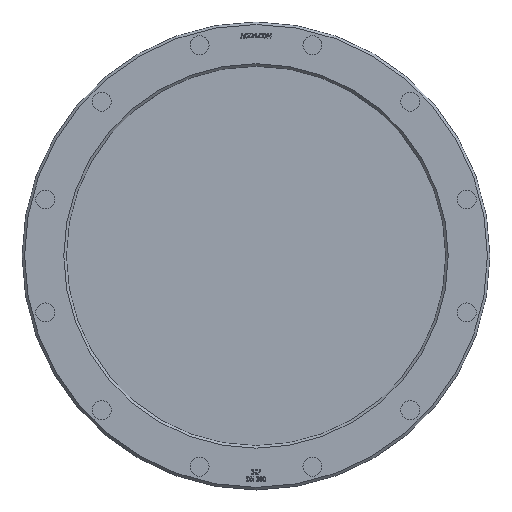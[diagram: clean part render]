
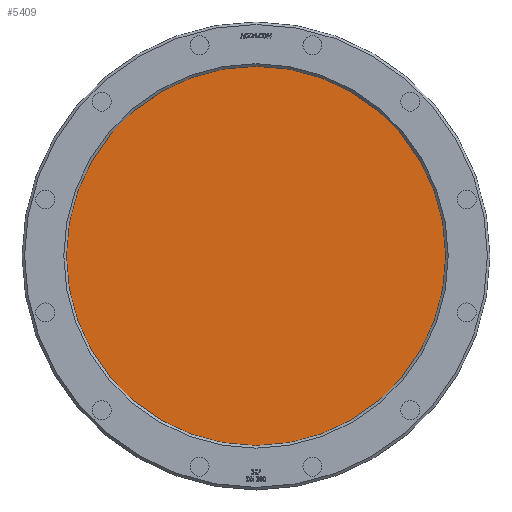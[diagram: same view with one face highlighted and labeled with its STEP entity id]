
A CAD part, top view. The second image highlights one B-rep face of the part: STEP entity #5409.
In plain terms, the highlighted planar face has unit normal (0, 0, 1).
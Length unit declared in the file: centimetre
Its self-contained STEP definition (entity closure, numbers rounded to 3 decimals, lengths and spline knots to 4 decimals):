
#1734=FACE_OUTER_BOUND('',#2039,.T.);
#2039=EDGE_LOOP('',(#3720));
#2393=CIRCLE('',#5718,15.);
#2426=VERTEX_POINT('',#6825);
#2949=EDGE_CURVE('',#2426,#2426,#2393,.T.);
#3720=ORIENTED_EDGE('',*,*,#2949,.F.);
#5251=PLANE('',#5717);
#5409=ADVANCED_FACE('',(#1734),#5251,.F.);
#5717=AXIS2_PLACEMENT_3D('',#6824,#5934,#5935);
#5718=AXIS2_PLACEMENT_3D('',#6826,#5936,#5937);
#5934=DIRECTION('center_axis',(0.,0.,-1.));
#5935=DIRECTION('ref_axis',(-1.,0.,0.));
#5936=DIRECTION('center_axis',(0.,0.,-1.));
#5937=DIRECTION('ref_axis',(-1.,0.,0.));
#6824=CARTESIAN_POINT('Origin',(0.,0.,
2.4));
#6825=CARTESIAN_POINT('',(15.,0.,2.4));
#6826=CARTESIAN_POINT('Origin',(0.,0.,
2.4));
